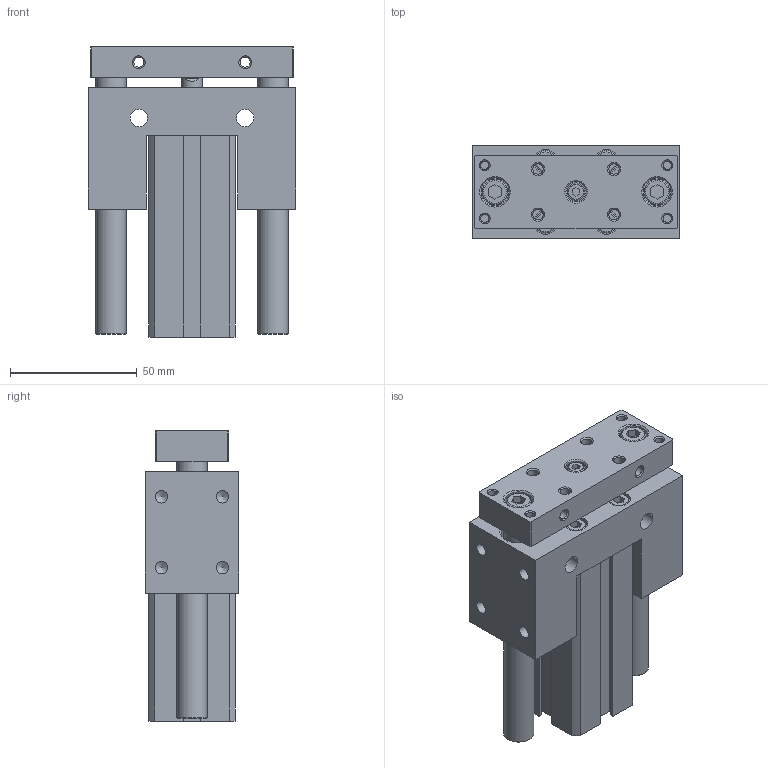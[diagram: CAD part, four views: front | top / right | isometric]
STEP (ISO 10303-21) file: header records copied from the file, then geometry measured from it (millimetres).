
FILE_DESCRIPTION((''),'2;1');
FILE_NAME('I:\3D電子目錄\氣缸\JCB\JCB\JCB20-S\JCB20x50-S.stp','2007-08-21T18:28:21',('Administrator'),(''),'Autodesk Inventor 11','Autodesk Inventor 11','');
FILE_SCHEMA(('AUTOMOTIVE_DESIGN { 1 0 10303 214 1 1 1 1 }'));
Length unit declared in the file: millimetre
Products named in the file (1): JCB20
Bounding box: 82 x 37 x 114.5 mm (x, y, z)
Volume: 209246.9 mm3; surface area: 66502.2 mm2
Topology: 5 solids, 5 shells, 293 faces, 643 edges, 415 vertices
Faces by surface type: plane 150, bspline 53, cylinder 45, cone 37, torus 8
Full cylindrical faces by diameter (mm): 1.5 x2, 4.3 x4, 4.917 x4, 7 x9, 8 x1, 8.5 x4, 9 x1, 10 x2, 12 x2, 13 x2, 14 x2, 22 x4, 23.2 x2
Entity records: 7875 total; most frequent: CARTESIAN_POINT 1985, DIRECTION 1184, ORIENTED_EDGE 992, EDGE_LOOP 504, EDGE_CURVE 496, AXIS2_PLACEMENT_3D 447, VERTEX_POINT 394, FACE_OUTER_BOUND 293
